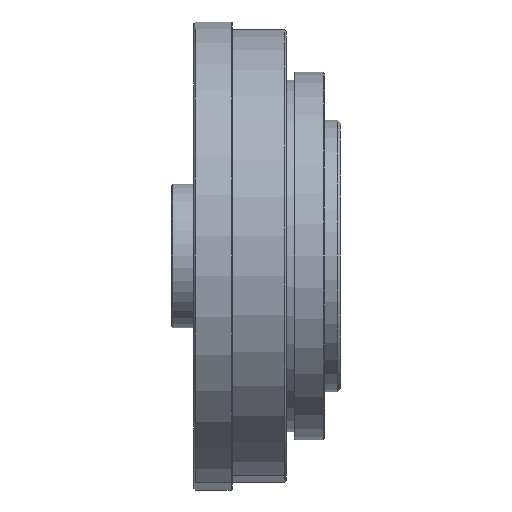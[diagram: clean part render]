
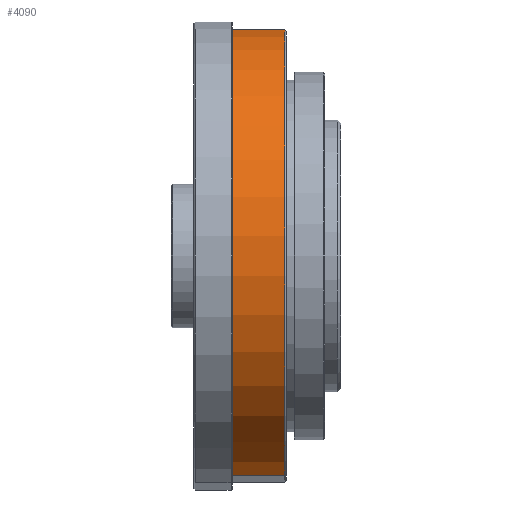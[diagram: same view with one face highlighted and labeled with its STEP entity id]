
A CAD part, front view. The second image highlights one B-rep face of the part: STEP entity #4090.
In plain terms, the highlighted cylindrical face has radius 71 mm (diameter 142 mm), a partial arc.
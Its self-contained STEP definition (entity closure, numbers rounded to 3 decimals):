
#21 = VECTOR ( 'NONE', #1415, 1000. ) ;
#604 = VERTEX_POINT ( 'NONE', #8675 ) ;
#781 = CYLINDRICAL_SURFACE ( 'NONE', #31577, 71. ) ;
#792 = DIRECTION ( 'NONE',  ( -1., 0., 0. ) ) ;
#1415 = DIRECTION ( 'NONE',  ( -1., 0., 0. ) ) ;
#1654 = FACE_OUTER_BOUND ( 'NONE', #33195, .T. ) ;
#2136 = EDGE_CURVE ( 'NONE', #19756, #604, #13521, .T. ) ;
#4090 = ADVANCED_FACE ( 'NONE', ( #1654 ), #781, .T. ) ;
#4797 = CARTESIAN_POINT ( 'NONE',  ( 25.1, 0., -71. ) ) ;
#5856 = DIRECTION ( 'NONE',  ( 0., 0., 1. ) ) ;
#7150 = EDGE_CURVE ( 'NONE', #10603, #28191, #24820, .T. ) ;
#7685 = AXIS2_PLACEMENT_3D ( 'NONE', #7696, #27896, #10634 ) ;
#7696 = CARTESIAN_POINT ( 'NONE',  ( 5.9, 0., 0. ) ) ;
#8675 = CARTESIAN_POINT ( 'NONE',  ( 5.9, 0., 71. ) ) ;
#9504 = ORIENTED_EDGE ( 'NONE', *, *, #2136, .T. ) ;
#10603 = VERTEX_POINT ( 'NONE', #4797 ) ;
#10634 = DIRECTION ( 'NONE',  ( 0., 0., 1. ) ) ;
#11138 = ORIENTED_EDGE ( 'NONE', *, *, #7150, .F. ) ;
#11730 = ORIENTED_EDGE ( 'NONE', *, *, #27820, .T. ) ;
#12272 = CARTESIAN_POINT ( 'NONE',  ( 0., 0., -71. ) ) ;
#13521 = LINE ( 'NONE', #30296, #21 ) ;
#14372 = CARTESIAN_POINT ( 'NONE',  ( 0., 0., 0. ) ) ;
#14414 = CARTESIAN_POINT ( 'NONE',  ( 25.1, 0., 0. ) ) ;
#17179 = VECTOR ( 'NONE', #792, 1000. ) ;
#17327 = DIRECTION ( 'NONE',  ( 0., 0., 1. ) ) ;
#18877 = CIRCLE ( 'NONE', #36731, 71. ) ;
#19756 = VERTEX_POINT ( 'NONE', #32845 ) ;
#20167 = DIRECTION ( 'NONE',  ( -1., 0., 0. ) ) ;
#24820 = LINE ( 'NONE', #12272, #17179 ) ;
#27603 = EDGE_CURVE ( 'NONE', #28191, #604, #31059, .T. ) ;
#27820 = EDGE_CURVE ( 'NONE', #10603, #19756, #18877, .T. ) ;
#27896 = DIRECTION ( 'NONE',  ( -1., 0., 0. ) ) ;
#28191 = VERTEX_POINT ( 'NONE', #36570 ) ;
#29535 = ORIENTED_EDGE ( 'NONE', *, *, #27603, .F. ) ;
#30296 = CARTESIAN_POINT ( 'NONE',  ( 0., 0., 71. ) ) ;
#31059 = CIRCLE ( 'NONE', #7685, 71. ) ;
#31577 = AXIS2_PLACEMENT_3D ( 'NONE', #14372, #20167, #5856 ) ;
#32845 = CARTESIAN_POINT ( 'NONE',  ( 25.1, 0., 71. ) ) ;
#33195 = EDGE_LOOP ( 'NONE', ( #11138, #11730, #9504, #29535 ) ) ;
#34604 = DIRECTION ( 'NONE',  ( -1., 0., 0. ) ) ;
#36570 = CARTESIAN_POINT ( 'NONE',  ( 5.9, 0., -71. ) ) ;
#36731 = AXIS2_PLACEMENT_3D ( 'NONE', #14414, #34604, #17327 ) ;
